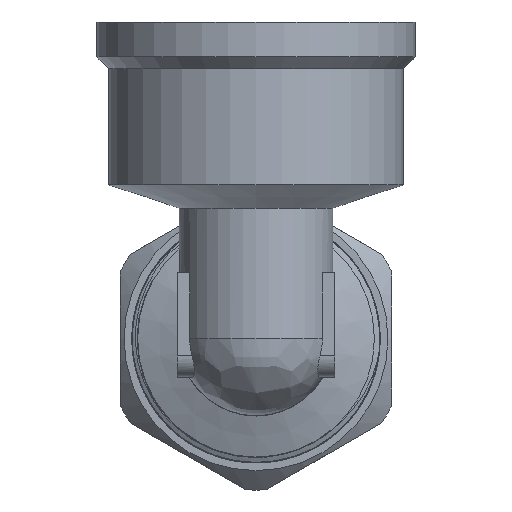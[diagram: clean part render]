
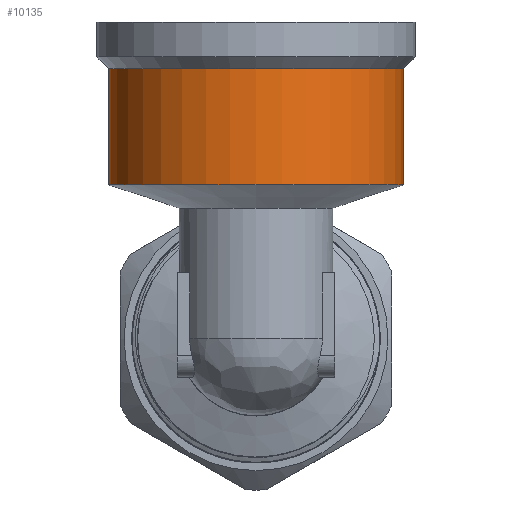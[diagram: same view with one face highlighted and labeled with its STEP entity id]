
A CAD part, front view. The second image highlights one B-rep face of the part: STEP entity #10135.
In plain terms, the highlighted cylindrical face has radius 19 mm (diameter 38 mm), a full revolution.
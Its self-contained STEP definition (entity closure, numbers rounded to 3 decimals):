
#1282=CYLINDRICAL_SURFACE('',#10833,19.);
#1384=FACE_OUTER_BOUND('',#1970,.T.);
#1970=EDGE_LOOP('',(#6924,#6925,#6926,#6927,#6928,#6929));
#2608=LINE('',#13305,#3267);
#3267=VECTOR('',#11467,19.);
#3930=CIRCLE('',#10818,19.);
#3931=CIRCLE('',#10819,19.);
#3936=CIRCLE('',#10828,19.);
#3937=CIRCLE('',#10829,19.);
#4192=VERTEX_POINT('',#13274);
#4193=VERTEX_POINT('',#13276);
#4198=VERTEX_POINT('',#13293);
#4199=VERTEX_POINT('',#13294);
#5283=EDGE_CURVE('',#4192,#4193,#3930,.T.);
#5284=EDGE_CURVE('',#4193,#4192,#3931,.T.);
#5291=EDGE_CURVE('',#4198,#4199,#3936,.T.);
#5292=EDGE_CURVE('',#4199,#4198,#3937,.T.);
#5297=EDGE_CURVE('',#4192,#4199,#2608,.T.);
#6924=ORIENTED_EDGE('',*,*,#5284,.F.);
#6925=ORIENTED_EDGE('',*,*,#5283,.F.);
#6926=ORIENTED_EDGE('',*,*,#5297,.T.);
#6927=ORIENTED_EDGE('',*,*,#5292,.T.);
#6928=ORIENTED_EDGE('',*,*,#5291,.T.);
#6929=ORIENTED_EDGE('',*,*,#5297,.F.);
#10135=ADVANCED_FACE('',(#1384),#1282,.T.);
#10818=AXIS2_PLACEMENT_3D('',#13277,#11432,#11433);
#10819=AXIS2_PLACEMENT_3D('',#13278,#11434,#11435);
#10828=AXIS2_PLACEMENT_3D('',#13295,#11454,#11455);
#10829=AXIS2_PLACEMENT_3D('',#13296,#11456,#11457);
#10833=AXIS2_PLACEMENT_3D('',#13304,#11465,#11466);
#11432=DIRECTION('center_axis',(0.,0.,1.));
#11433=DIRECTION('ref_axis',(1.,0.,0.));
#11434=DIRECTION('center_axis',(0.,0.,1.));
#11435=DIRECTION('ref_axis',(1.,0.,0.));
#11454=DIRECTION('center_axis',(0.,0.,1.));
#11455=DIRECTION('ref_axis',(1.,0.,0.));
#11456=DIRECTION('center_axis',(0.,0.,1.));
#11457=DIRECTION('ref_axis',(1.,0.,0.));
#11465=DIRECTION('center_axis',(0.,0.,1.));
#11466=DIRECTION('ref_axis',(0.,-1.,0.));
#11467=DIRECTION('',(0.,0.,-1.));
#13274=CARTESIAN_POINT('',(0.,-16.5,34.8));
#13276=CARTESIAN_POINT('',(0.,-54.5,34.8));
#13277=CARTESIAN_POINT('Origin',(0.,-35.5,34.8));
#13278=CARTESIAN_POINT('Origin',(0.,-35.5,34.8));
#13293=CARTESIAN_POINT('',(0.,-54.5,19.8));
#13294=CARTESIAN_POINT('',(0.,-16.5,19.8));
#13295=CARTESIAN_POINT('Origin',(0.,-35.5,19.8));
#13296=CARTESIAN_POINT('Origin',(0.,-35.5,19.8));
#13304=CARTESIAN_POINT('Origin',(0.,-35.5,27.3));
#13305=CARTESIAN_POINT('',(0.,-16.5,27.3));
